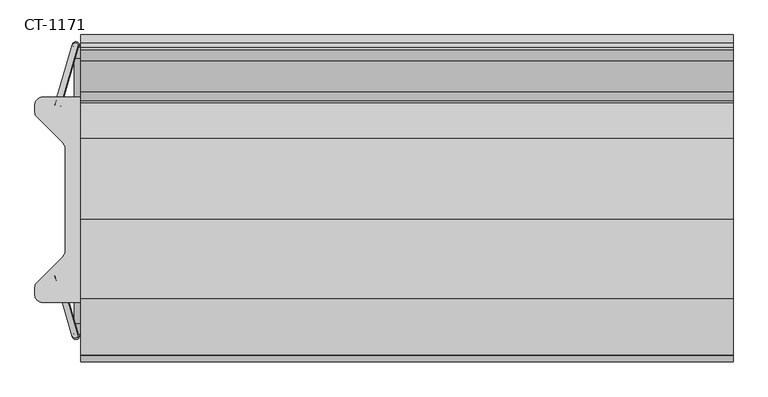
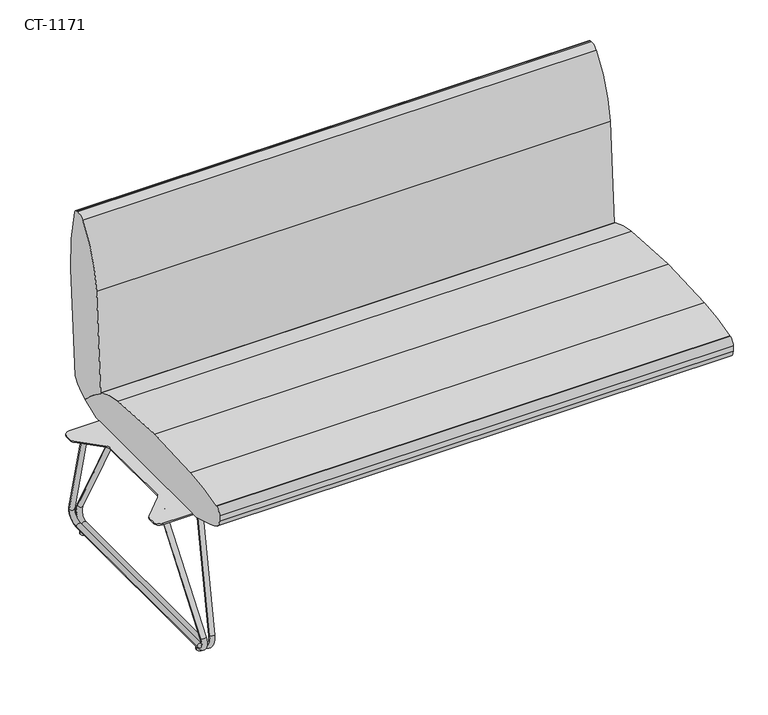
"""IFC4 building model written with IfcOpenShell, lengths in millimetres: furniture geometry, Davis_Furniture-Cantina-Low_Back_Straight : CT-1171."""

from ifc_helpers import new_model, si_unit, point, frame, frame_2d, origin, origin_with_axes, place, context, project, spatial, polyline, circle_curve, ellipse_curve, trimmed, segment, composite_curve, outline, extrude, source, transform, mapped, element, save
from ifc_brep_helpers import plane_surface, cylinder_surface, revolved_surface, advanced_brep


def ct_1171_7dda7bf0(model_context):
    return source(origin(), model_context, "Body", "SolidModel", [
        extrude(outline(composite_curve([segment(trimmed(circle_curve(frame_2d((-560.9693187, 183.2173202)), 14.9820313), [point((-560.9693187, 198.1993514))], [point((-545.9872874, 183.2173202))], False, "CARTESIAN"), True, "CONTINUOUS"), segment(polyline([(-545.9872874, 183.2173202), (-545.9872874, 168.7877705)]), True, "CONTINUOUS"), segment(trimmed(circle_curve(frame_2d((-559.9936431, 168.7877705)), 14.0063557), [point((-545.9872874, 168.7877705))], [point((-550.089654, 158.8837814))], False, "CARTESIAN"), True, "CONTINUOUS"), segment(polyline([(-550.089654, 158.8837814), (-600.6863336, 108.2871019)]), True, "CONTINUOUS"), segment(trimmed(circle_curve(frame_2d((-590.3029124, 97.9036807)), 14.684375), [point((-600.6863336, 108.2871019))], [point((-604.9872874, 97.9036807))], True, "CARTESIAN"), True, "CONTINUOUS"), segment(polyline([(-604.9872874, 97.9036807), (-604.9872874, -101.5049781)]), True, "CONTINUOUS"), segment(trimmed(circle_curve(frame_2d((-590.3029124, -101.5049781)), 14.684375), [point((-604.9872874, -101.5049781))], [point((-600.6863336, -111.8883992))], True, "CARTESIAN"), True, "CONTINUOUS"), segment(polyline([(-600.6863336, -111.8883992), (-550.089654, -162.4850787)]), True, "CONTINUOUS"), segment(trimmed(circle_curve(frame_2d((-559.9936431, -172.3890678)), 14.0063557), [point((-550.089654, -162.4850787))], [point((-545.9872874, -172.3890678))], False, "CARTESIAN"), True, "CONTINUOUS"), segment(polyline([(-545.9872874, -172.3890678), (-545.9872874, -186.8186175)]), True, "CONTINUOUS"), segment(trimmed(circle_curve(frame_2d((-560.9693187, -186.8186175)), 14.9820312), [point((-545.9872874, -186.8186175))], [point((-560.9693187, -201.8006488))], False, "CARTESIAN"), True, "CONTINUOUS"), segment(polyline([(-560.9693187, -201.8006488), (-709.0306813, -201.8006488)]), True, "CONTINUOUS"), segment(trimmed(circle_curve(frame_2d((-709.0306813, -186.8440427)), 14.956606), [point((-709.0306813, -201.8006488))], [point((-723.9872873, -186.8440427))], False, "CARTESIAN"), True, "CONTINUOUS"), segment(polyline([(-723.9872873, -186.8440427), (-723.9872873, -172.3822284)]), True, "CONTINUOUS"), segment(trimmed(circle_curve(frame_2d((-709.9974436, -172.3822284)), 13.9898438), [point((-723.9872873, -172.3822284))], [point((-719.889757, -162.489915))], False, "CARTESIAN"), True, "CONTINUOUS"), segment(polyline([(-719.889757, -162.489915), (-669.2882412, -111.8883992)]), True, "CONTINUOUS"), segment(trimmed(circle_curve(frame_2d((-679.6716623, -101.5049781)), 14.684375), [point((-669.2882412, -111.8883992))], [point((-664.9872873, -101.5049781))], True, "CARTESIAN"), True, "CONTINUOUS"), segment(polyline([(-664.9872873, -101.5049781), (-664.9872873, 97.918921)]), True, "CONTINUOUS"), segment(trimmed(circle_curve(frame_2d((-679.6348691, 97.918921)), 14.6475818), [point((-664.9872873, 97.918921))], [point((-669.2774647, 108.2763254))], True, "CARTESIAN"), True, "CONTINUOUS"), segment(polyline([(-669.2774647, 108.2763254), (-719.889757, 158.8886177)]), True, "CONTINUOUS"), segment(trimmed(circle_curve(frame_2d((-709.9974436, 168.780931)), 13.9898437), [point((-719.889757, 158.8886177))], [point((-723.9872873, 168.780931))], False, "CARTESIAN"), True, "CONTINUOUS"), segment(polyline([(-723.9872873, 168.780931), (-723.9872873, 183.2427454)]), True, "CONTINUOUS"), segment(trimmed(circle_curve(frame_2d((-709.0306813, 183.2427454)), 14.956606), [point((-723.9872873, 183.2427454))], [point((-709.0306813, 198.1993514))], False, "CARTESIAN"), True, "CONTINUOUS"), segment(polyline([(-709.0306813, 198.1993514), (-560.9693187, 198.1993514)]), True, "CONTINUOUS")], self_intersect=False)), frame((0.0, 0.0, 330.7277844), z_axis=(0.0, 0.0, 1.0), x_axis=(1.0, 0.0, 0.0)), (0.0, 0.0, 1.0), 3.1724353),
        advanced_brep(
        [(-630.6523545, 298.4299122, 51.3019909), (-618.2136707, 297.001732, 49.1737411), (-583.6431811, 178.5251074, 330.7277844), (-596.3431811, 180.8488451, 330.7277844), (-635.0044706, 274.6441492, 15.8568497), (-622.3044706, 274.6441492, 15.8568497), (-635.0044706, -242.6856853, 15.8568497), (-622.3044706, -242.6856853, 15.8568497), (-630.6523545, -266.4714483, 51.3019909), (-618.2136707, -265.0432681, 49.1737411), (-596.3431811, -148.8903812, 330.7277844), (-583.6431811, -146.5666435, 330.7277844)],
        [
            (0, 1, circle_curve(frame((-624.4330126, 297.7158221, 50.237866), z_axis=(0.112455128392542, -0.3853952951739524, 0.9158735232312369), x_axis=(-0.9794239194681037, 0.11245512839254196, 0.16757872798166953)), 6.35)),
            (1, 2),
            (2, 3, ellipse_curve(frame((-589.9931811, 179.6869762, 330.7277844), z_axis=(0.0, 0.0, -1.0), x_axis=(0.28011057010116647, -0.9599677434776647, 0.0)), 6.9332717, 6.35)),
            (3, 0),
            (1, 0, circle_curve(frame((-624.4330126, 297.7158221, 50.237866), z_axis=(0.112455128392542, -0.3853952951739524, 0.9158735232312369), x_axis=(-0.9794239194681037, 0.11245512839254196, 0.16757872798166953)), 6.35)),
            (3, 2, ellipse_curve(frame((-589.9931811, 179.6869762, 330.7277844), z_axis=(0.0, 0.0, -1.0), x_axis=(0.28011057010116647, -0.9599677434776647, 0.0)), 6.9332717, 6.35)),
            (0, 4, circle_curve(frame((-631.8630451, 274.6441492, 41.4417072), z_axis=(-0.9925461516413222, 0.0, 0.12186934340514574), x_axis=(0.046967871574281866, 0.9227515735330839, 0.38252261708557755)), 25.7769953)),
            (4, 5, circle_curve(frame((-628.6544706, 274.6441492, 15.8568497), z_axis=(0.0, 1.0, 0.0), x_axis=(-1.0, 0.0, 0.0)), 6.35)),
            (5, 1, circle_curve(frame((-619.3516672, 274.6441492, 39.9055032), z_axis=(0.9925461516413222, 0.0, -0.12186934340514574), x_axis=(0.046967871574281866, 0.9227515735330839, 0.38252261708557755)), 24.2292547)),
            (5, 4, circle_curve(frame((-628.6544706, 274.6441492, 15.8568497), z_axis=(0.0, 0.9999999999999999, 0.0), x_axis=(-1.0, 0.0, 0.0)), 6.35)),
            (4, 6),
            (6, 7, circle_curve(frame((-628.6544706, -242.6856853, 15.8568497), z_axis=(0.0, 1.0, 0.0), x_axis=(-1.0, 0.0, 0.0)), 6.35)),
            (7, 5),
            (7, 6, circle_curve(frame((-628.6544706, -242.6856853, 15.8568497), z_axis=(0.0, 1.0, 0.0), x_axis=(-1.0, 0.0, 0.0)), 6.35)),
            (6, 8, circle_curve(frame((-631.8630451, -242.6856853, 41.4417072), z_axis=(-0.9925461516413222, 0.0, 0.12186934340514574), x_axis=(-0.12186934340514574, 0.0, -0.9925461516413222)), 25.7769953)),
            (8, 9, circle_curve(frame((-624.4330126, -265.7573582, 50.237866), z_axis=(-0.11245512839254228, -0.3853952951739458, -0.9158735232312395), x_axis=(-0.9794239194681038, -0.1124551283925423, 0.16757872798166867)), 6.35)),
            (9, 7, circle_curve(frame((-619.3516672, -242.6856853, 39.9055032), z_axis=(0.9925461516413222, 0.0, -0.12186934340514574), x_axis=(-0.12186934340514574, 0.0, -0.9925461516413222)), 24.2292547)),
            (9, 8, circle_curve(frame((-624.4330126, -265.7573582, 50.237866), z_axis=(-0.11245512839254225, -0.3853952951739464, -0.9158735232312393), x_axis=(-0.9794239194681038, -0.11245512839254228, 0.16757872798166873)), 6.35)),
            (8, 10),
            (10, 11, ellipse_curve(frame((-589.9931811, -147.7285123, 330.7277844), z_axis=(0.0, 0.0, -1.0), x_axis=(-0.28011057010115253, -0.9599677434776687, 0.0)), 6.9332717, 6.35)),
            (11, 9),
            (11, 10, ellipse_curve(frame((-589.9931811, -147.7285123, 330.7277844), z_axis=(0.0, 0.0, -1.0), x_axis=(-0.28011057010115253, -0.9599677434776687, 0.0)), 6.9332717, 6.35)),
        ],
        [
            cylinder_surface(frame((-588.8594802, 175.8016664, 339.9610379), z_axis=(0.112455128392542, -0.3853952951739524, 0.9158735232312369), x_axis=(-0.9794239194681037, 0.11245512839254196, 0.16757872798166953)), 6.35),
            revolved_surface(trimmed(ellipse_curve(frame((-624.4330126, 297.7158221, 50.237866), z_axis=(0.11245512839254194, -0.38539529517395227, 0.9158735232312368), x_axis=(-0.9794239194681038, 0.112455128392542, 0.1675787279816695)), 6.35, 6.35), [point((-630.6523545, 298.4299122, 51.3019909))], [point((-618.2136707, 297.001732, 49.1737411))], True, "CARTESIAN"), (-572.6417625, 274.6441492, 34.170248), (-0.9925461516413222, 0.0, 0.12186934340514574)),
            revolved_surface(trimmed(ellipse_curve(frame((-624.4330126, 297.7158221, 50.237866), z_axis=(0.11245512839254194, -0.38539529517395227, 0.9158735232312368), x_axis=(-0.9794239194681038, 0.112455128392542, 0.1675787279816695)), 6.35, 6.35), [point((-618.2136707, 297.001732, 49.1737411))], [point((-630.6523545, 298.4299122, 51.3019909))], True, "CARTESIAN"), (-572.6417625, 274.6441492, 34.170248), (-0.9925461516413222, 0.0, 0.12186934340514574)),
            cylinder_surface(frame((-628.6544706, 274.6441492, 15.8568497), z_axis=(0.0, 1.0, 0.0), x_axis=(-1.0, 0.0, 0.0)), 6.35),
            revolved_surface(trimmed(ellipse_curve(frame((-628.6544706, -242.6856853, 15.8568497), z_axis=(0.0, 1.0, 0.0), x_axis=(-1.0, 0.0, 0.0)), 6.35, 6.35), [point((-635.0044706, -242.6856853, 15.8568497))], [point((-622.3044706, -242.6856853, 15.8568497))], True, "CARTESIAN"), (-572.6417625, -242.6856853, 34.170248), (-0.9925461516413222, 0.0, 0.12186934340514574)),
            revolved_surface(trimmed(ellipse_curve(frame((-628.6544706, -242.6856853, 15.8568497), z_axis=(0.0, 1.0, 0.0), x_axis=(-1.0, 0.0, 0.0)), 6.35, 6.35), [point((-622.3044706, -242.6856853, 15.8568497))], [point((-635.0044706, -242.6856853, 15.8568497))], True, "CARTESIAN"), (-572.6417625, -242.6856853, 34.170248), (-0.9925461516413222, 0.0, 0.12186934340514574)),
            cylinder_surface(frame((-624.4330126, -265.7573582, 50.237866), z_axis=(-0.11245512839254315, -0.38539529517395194, -0.9158735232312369), x_axis=(-0.9794239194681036, -0.11245512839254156, 0.1675787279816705)), 6.35),
            plane_surface(frame((-695.325, -168.170768, 330.7277844), z_axis=(0.0, 0.0, 1.0), x_axis=(0.0, 1.0, 0.0))),
        ],
        [
            (0, [[1, 2, 3, 4]]),
            (0, [[5, -4, 6, -2]]),
            (1, [[-1, 7, 8, 9]]),
            (2, [[-5, -9, 10, -7]]),
            (3, [[-8, 11, 12, 13]]),
            (3, [[-10, -13, 14, -11]]),
            (4, [[-12, 15, 16, 17]]),
            (5, [[-14, -17, 18, -15]]),
            (6, [[-16, 19, 20, 21]]),
            (6, [[-18, -21, 22, -19]]),
            (7, [[-3, -6]]),
            (7, [[-20, -22]]),
        ],
    ),
        advanced_brep(
        [(-651.7863293, 297.001732, 49.1737411), (-639.3476455, 298.4299122, 51.3019909), (-673.6568189, 180.8488451, 330.7277844), (-686.3568189, 178.5251074, 330.7277844), (-647.6955294, 274.6441492, 15.8568497), (-634.9955294, 274.6441492, 15.8568497), (-647.6955294, -242.6856853, 15.8568497), (-634.9955294, -242.6856853, 15.8568497), (-651.7863293, -265.0432681, 49.1737411), (-639.3476455, -266.4714483, 51.3019909), (-686.3568189, -146.5666435, 330.7277844), (-673.6568189, -148.8903812, 330.7277844)],
        [
            (0, 1, circle_curve(frame((-645.5669874, 297.7158221, 50.237866), z_axis=(-0.11245512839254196, -0.38539529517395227, 0.915873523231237), x_axis=(0.9794239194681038, 0.11245512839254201, 0.1675787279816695)), 6.35)),
            (1, 2),
            (2, 3, ellipse_curve(frame((-680.0068189, 179.6869762, 330.7277844), z_axis=(0.0, 0.0, -1.0), x_axis=(-0.28011057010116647, -0.9599677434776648, 0.0)), 6.9332717, 6.35)),
            (3, 0),
            (1, 0, circle_curve(frame((-645.5669874, 297.7158221, 50.237866), z_axis=(-0.11245512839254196, -0.38539529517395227, 0.915873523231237), x_axis=(0.9794239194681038, 0.11245512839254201, 0.1675787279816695)), 6.35)),
            (3, 2, ellipse_curve(frame((-680.0068189, 179.6869762, 330.7277844), z_axis=(0.0, 0.0, -1.0), x_axis=(-0.28011057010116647, -0.9599677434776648, 0.0)), 6.9332717, 6.35)),
            (0, 4, circle_curve(frame((-650.6483328, 274.6441492, 39.9055032), z_axis=(-0.9925461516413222, 0.0, -0.12186934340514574), x_axis=(-0.046967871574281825, 0.9227515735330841, 0.38252261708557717)), 24.2292547)),
            (4, 5, circle_curve(frame((-641.3455294, 274.6441492, 15.8568497), z_axis=(0.0, 1.0000000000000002, 0.0), x_axis=(1.0, 0.0, 0.0)), 6.35)),
            (5, 1, circle_curve(frame((-638.1369549, 274.6441492, 41.4417072), z_axis=(0.9925461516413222, 0.0, 0.12186934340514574), x_axis=(-0.046967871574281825, 0.9227515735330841, 0.38252261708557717)), 25.7769953)),
            (5, 4, circle_curve(frame((-641.3455294, 274.6441492, 15.8568497), z_axis=(0.0, 1.0000000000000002, 0.0), x_axis=(1.0, 0.0, 0.0)), 6.35)),
            (4, 6),
            (6, 7, circle_curve(frame((-641.3455294, -242.6856853, 15.8568497), z_axis=(0.0, 1.0, 0.0), x_axis=(1.0, 0.0, 0.0)), 6.35)),
            (7, 5),
            (7, 6, circle_curve(frame((-641.3455294, -242.6856853, 15.8568497), z_axis=(0.0, 1.0, 0.0), x_axis=(1.0, 0.0, 0.0)), 6.35)),
            (6, 8, circle_curve(frame((-650.6483328, -242.6856853, 39.9055032), z_axis=(-0.9925461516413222, 0.0, -0.12186934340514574), x_axis=(0.12186934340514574, 0.0, -0.9925461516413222)), 24.2292547)),
            (8, 9, circle_curve(frame((-645.5669874, -265.7573582, 50.237866), z_axis=(0.11245512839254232, -0.3853952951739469, -0.915873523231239), x_axis=(0.9794239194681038, -0.11245512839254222, 0.1675787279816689)), 6.35)),
            (9, 7, circle_curve(frame((-638.1369549, -242.6856853, 41.4417072), z_axis=(0.9925461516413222, 0.0, 0.12186934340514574), x_axis=(0.12186934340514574, 0.0, -0.9925461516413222)), 25.7769953)),
            (9, 8, circle_curve(frame((-645.5669874, -265.7573582, 50.237866), z_axis=(0.11245512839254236, -0.3853952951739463, -0.9158735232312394), x_axis=(0.9794239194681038, -0.11245512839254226, 0.1675787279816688)), 6.35)),
            (8, 10),
            (10, 11, ellipse_curve(frame((-680.0068189, -147.7285123, 330.7277844), z_axis=(0.0, 0.0, -1.0), x_axis=(0.2801105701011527, -0.9599677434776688, 0.0)), 6.9332717, 6.35)),
            (11, 9),
            (11, 10, ellipse_curve(frame((-680.0068189, -147.7285123, 330.7277844), z_axis=(0.0, 0.0, -1.0), x_axis=(0.2801105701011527, -0.9599677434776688, 0.0)), 6.9332717, 6.35)),
        ],
        [
            cylinder_surface(frame((-681.1405198, 175.8016664, 339.9610379), z_axis=(-0.11245512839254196, -0.38539529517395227, 0.915873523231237), x_axis=(0.9794239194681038, 0.11245512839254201, 0.1675787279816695)), 6.35),
            revolved_surface(trimmed(ellipse_curve(frame((-645.5669874, 297.7158221, 50.237866), z_axis=(-0.11245512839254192, -0.385395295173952, 0.9158735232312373), x_axis=(0.9794239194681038, 0.11245512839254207, 0.1675787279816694)), 6.35, 6.35), [point((-651.7863293, 297.001732, 49.1737411))], [point((-639.3476455, 298.4299122, 51.3019909))], True, "CARTESIAN"), (-697.3582375, 274.6441492, 34.170248), (-0.9925461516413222, 0.0, -0.12186934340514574)),
            revolved_surface(trimmed(ellipse_curve(frame((-645.5669874, 297.7158221, 50.237866), z_axis=(-0.11245512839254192, -0.385395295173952, 0.9158735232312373), x_axis=(0.9794239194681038, 0.11245512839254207, 0.1675787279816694)), 6.35, 6.35), [point((-639.3476455, 298.4299122, 51.3019909))], [point((-651.7863293, 297.001732, 49.1737411))], True, "CARTESIAN"), (-697.3582375, 274.6441492, 34.170248), (-0.9925461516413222, 0.0, -0.12186934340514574)),
            cylinder_surface(frame((-641.3455294, 274.6441492, 15.8568497), z_axis=(0.0, 1.0, 0.0), x_axis=(1.0, 0.0, 0.0)), 6.35),
            revolved_surface(trimmed(ellipse_curve(frame((-641.3455294, -242.6856853, 15.8568497), z_axis=(0.0, 1.0, 0.0), x_axis=(1.0, 0.0, 0.0)), 6.35, 6.35), [point((-647.6955294, -242.6856853, 15.8568497))], [point((-634.9955294, -242.6856853, 15.8568497))], True, "CARTESIAN"), (-697.3582375, -242.6856853, 34.170248), (-0.9925461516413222, 0.0, -0.12186934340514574)),
            revolved_surface(trimmed(ellipse_curve(frame((-641.3455294, -242.6856853, 15.8568497), z_axis=(0.0, 1.0, 0.0), x_axis=(1.0, 0.0, 0.0)), 6.35, 6.35), [point((-634.9955294, -242.6856853, 15.8568497))], [point((-647.6955294, -242.6856853, 15.8568497))], True, "CARTESIAN"), (-697.3582375, -242.6856853, 34.170248), (-0.9925461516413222, 0.0, -0.12186934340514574)),
            cylinder_surface(frame((-645.5669874, -265.7573582, 50.237866), z_axis=(0.11245512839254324, -0.38539529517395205, -0.9158735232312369), x_axis=(0.9794239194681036, -0.11245512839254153, 0.16757872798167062)), 6.35),
            plane_surface(frame((-695.325, -168.170768, 330.7277844), z_axis=(0.0, 0.0, 1.0), x_axis=(0.0, 1.0, 0.0))),
        ],
        [
            (0, [[1, 2, 3, 4]]),
            (0, [[5, -4, 6, -2]]),
            (1, [[-1, 7, 8, 9]]),
            (2, [[-5, -9, 10, -7]]),
            (3, [[-8, 11, 12, 13]]),
            (3, [[-10, -13, 14, -11]]),
            (4, [[-12, 15, 16, 17]]),
            (5, [[-14, -17, 18, -15]]),
            (6, [[-16, 19, 20, 21]]),
            (6, [[-18, -21, 22, -19]]),
            (7, [[-3, -6]]),
            (7, [[-20, -22]]),
        ],
    ),
        extrude(outline(composite_curve([segment(trimmed(circle_curve(frame_2d((-635.0, -233.1061316)), 8.5328125), [point((-643.5328125, -233.1061316))], [point((-626.4671875, -233.1061316))], False, "CARTESIAN"), True, "CONTINUOUS"), segment(trimmed(circle_curve(frame_2d((-635.0, -233.1061316)), 8.5328125), [point((-626.4671875, -233.1061316))], [point((-643.5328125, -233.1061316))], False, "CARTESIAN"), True, "CONTINUOUS")], self_intersect=False)), origin_with_axes(), (0.0, 0.0, 1.0), 9.5168817),
        extrude(outline(composite_curve([segment(trimmed(circle_curve(frame_2d((-635.0, 265.0645955)), 8.5328125), [point((-643.5328125, 265.0645955))], [point((-626.4671875, 265.0645955))], False, "CARTESIAN"), True, "CONTINUOUS"), segment(trimmed(circle_curve(frame_2d((-635.0, 265.0645955)), 8.5328125), [point((-626.4671875, 265.0645955))], [point((-643.5328125, 265.0645955))], False, "CARTESIAN"), True, "CONTINUOUS")], self_intersect=False)), origin_with_axes(), (0.0, 0.0, 1.0), 9.5168817),
        extrude(outline(composite_curve([segment(trimmed(circle_curve(frame_2d((474.1493206, 647.1766808)), 265.6354781), [point((209.1609171, 665.7064751))], [point((268.5355522, 815.358682))], False, "CARTESIAN"), True, "CONTINUOUS"), segment(trimmed(circle_curve(frame_2d((288.1962909, 799.2771598)), 25.4), [point((268.5355522, 815.358682))], [point((289.7203272, 824.6313964))], False, "CARTESIAN"), True, "CONTINUOUS"), segment(trimmed(circle_curve(frame_2d((287.8787488, 793.9944533)), 30.6922416), [point((289.7203272, 824.6313964))], [point((294.4061536, 823.984563))], False, "CARTESIAN"), True, "CONTINUOUS"), segment(trimmed(circle_curve(frame_2d((291.9702432, 812.7927917)), 11.4537943), [point((294.4061536, 823.984563))], [point((302.9831943, 815.9399032))], False, "CARTESIAN"), True, "CONTINUOUS"), segment(trimmed(circle_curve(frame_2d((-137.8318519, 689.9705732)), 458.4606603), [point((302.9831943, 815.9399032))], [point((319.5120213, 657.9899742))], False, "CARTESIAN"), True, "CONTINUOUS"), segment(polyline([(319.5120213, 657.9899742), (300.7190563, 389.2380528)]), True, "CONTINUOUS"), segment(trimmed(circle_curve(frame_2d((220.5881555, 443.6723211)), 96.8713106), [point((300.7190563, 389.2380528))], [point((259.2429572, 354.8474534))], False, "CARTESIAN"), True, "CONTINUOUS"), segment(polyline([(259.2429572, 354.8474534), (257.534578, 354.104001)]), True, "CONTINUOUS"), segment(trimmed(circle_curve(frame_2d((-1.5780479, 110.6982429)), 355.5076876), [point((257.534578, 354.104001))], [point((191.236527, 409.3757541))], True, "CARTESIAN"), True, "CONTINUOUS"), segment(polyline([(191.236527, 409.3757541), (209.1609171, 665.7064751)]), True, "CONTINUOUS")], self_intersect=False)), frame((-635.0, 0.0, 0.0), z_axis=(1.0, 0.0, 0.0), x_axis=(0.0, 1.0, 0.0)), (0.0, 0.0, 1.0), 1270.0),
        extrude(outline(composite_curve([segment(trimmed(circle_curve(frame_2d((-298.45, 397.7963214)), 19.05), [point((-317.5, 397.7963214))], [point((-305.7075305, 415.40969))], False, "CARTESIAN"), True, "CONTINUOUS"), segment(trimmed(circle_curve(frame_2d((-158.75, 58.7570862)), 385.7429138), [point((-305.7075305, 415.40969))], [point((-303.9688287, 416.1211685))], False, "CARTESIAN"), True, "CONTINUOUS"), segment(trimmed(circle_curve(frame_2d((-152.4794636, -82.1541678)), 520.7949103), [point((-303.9688287, 416.1211685))], [point((-195.0051963, 436.9016101))], False, "CARTESIAN"), True, "CONTINUOUS"), segment(trimmed(circle_curve(frame_2d((-43.2851266, -1414.9460545)), 1858.0524085), [point((-195.0051963, 436.9016101))], [point((-40.3038638, 443.1039622))], False, "CARTESIAN"), True, "CONTINUOUS"), segment(trimmed(circle_curve(frame_2d((-42.4075795, -868.0213401)), 1311.12699), [point((-40.3038638, 443.1039622))], [point((118.3875039, 433.208434))], False, "CARTESIAN"), True, "CONTINUOUS"), segment(trimmed(circle_curve(frame_2d((89.1279399, 196.42622)), 238.5831908), [point((118.3875039, 433.208434))], [point((186.7525399, 414.121825))], False, "CARTESIAN"), True, "CONTINUOUS"), segment(trimmed(circle_curve(frame_2d((177.0623361, 392.5133904)), 23.6817334), [point((186.7525399, 414.121825))], [point((192.2244211, 410.7050279))], False, "CARTESIAN"), True, "CONTINUOUS"), segment(polyline([(192.2244211, 410.7050279), (259.2429572, 354.8474534), (211.060536, 333.8794297), (-217.9078165, 333.8794297), (-278.4661162, 352.9828937)]), True, "CONTINUOUS"), segment(trimmed(circle_curve(frame_2d((-183.2470513, 654.8289187)), 316.5085989), [point((-278.4661162, 352.9828937))], [point((-294.9895137, 358.7017243))], False, "CARTESIAN"), True, "CONTINUOUS"), segment(trimmed(circle_curve(frame_2d((-272.8348429, 417.4135188)), 62.7527231), [point((-294.9895137, 358.7017243))], [point((-306.6952536, 364.5800367))], False, "CARTESIAN"), True, "CONTINUOUS"), segment(trimmed(circle_curve(frame_2d((-294.0326067, 384.3379698)), 23.4673933), [point((-306.6952536, 364.5800367))], [point((-317.5, 384.3379698))], False, "CARTESIAN"), True, "CONTINUOUS"), segment(polyline([(-317.5, 384.3379698), (-317.5, 397.7963214)]), True, "CONTINUOUS")], self_intersect=False)), frame((-635.0, 0.0, 0.0), z_axis=(1.0, 0.0, 0.0), x_axis=(0.0, 1.0, 0.0)), (0.0, 0.0, 1.0), 1270.0),
    ])


if __name__ == "__main__":
    model = new_model("IFC4")
    model_context = context("Model", 3, world=origin())
    ifc_project = project(units=[si_unit("LENGTHUNIT", "METRE", prefix="MILLI")], contexts=[model_context])
    site = spatial("IfcSite", under=ifc_project)
    building = spatial("IfcBuilding", under=site)
    placement = place(None, origin())
    ct_1171_shape = ct_1171_7dda7bf0(model_context)
    element("IfcFurniture", 1, ObjectType="Davis_Furniture-Cantina-Low_Back_Straight : CT-1171", at=placement, inside=building, context=model_context, shape_type="MappedRepresentation", body=[
        mapped(ct_1171_shape, transform((0.0, 0.0, 0.0), x_axis=(1.0, 0.0, 0.0), y_axis=(0.0, 1.0, 0.0), z_axis=(0.0, 0.0, 1.0))),
    ])
    save(model, "model.ifc")
